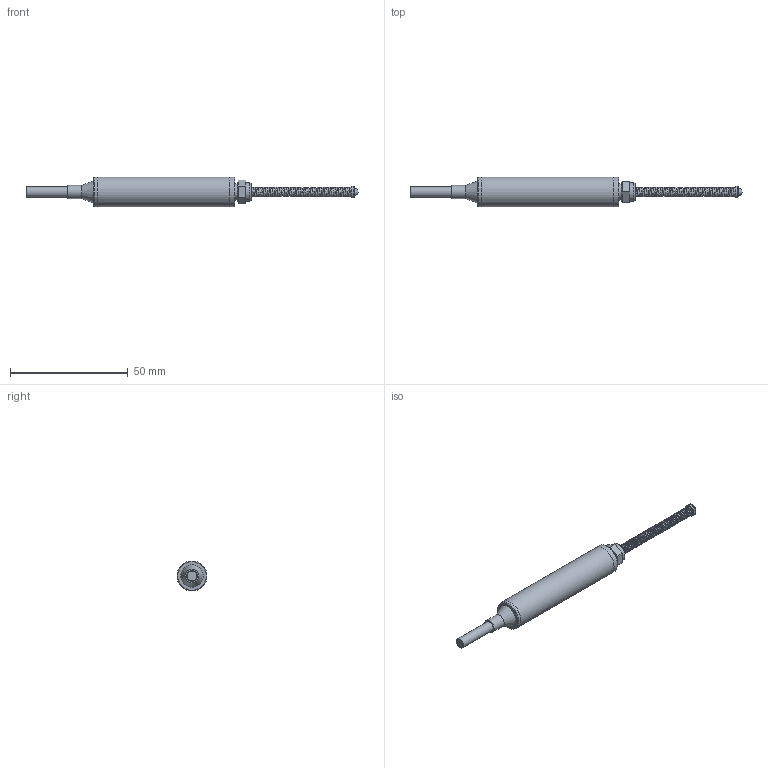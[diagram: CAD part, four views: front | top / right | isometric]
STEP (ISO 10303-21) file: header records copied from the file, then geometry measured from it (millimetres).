
FILE_DESCRIPTION(/* description */ (''),/* implementation_level */ '2;1');
FILE_NAME(/* name */ 'KPM12R2-25mm.stp',/* time_stamp */ '2022-04-18T13:12:28+08:00',/* author */ (''),/* organization */ (''),/* preprocessor_version */ 'ST-DEVELOPER v16',/* originating_system */ 'SIEMENS PLM Software NX 10.0',/* authorisation */ '');
FILE_SCHEMA (('AUTOMOTIVE_DESIGN { 1 0 10303 214 3 1 1 1 }'));
Length unit declared in the file: millimetre
Products named in the file (1): Admi28D0CC08idwa
Bounding box: 141.25 x 12.7 x 12.7 mm (x, y, z)
Volume: 4976.9 mm3; surface area: 9228.1 mm2
Topology: 11 solids, 11 shells, 142 faces, 333 edges, 224 vertices
Faces by surface type: plane 89, cylinder 42, cone 8, bspline 2, sphere 1
Full cylindrical faces by diameter (mm): 1.9 x1, 2.9 x1, 3 x1, 3.2 x1, 4.2 x1, 4.3 x3, 5 x2, 5.6 x1, 7.2 x1, 8 x2, 9.15 x1, 11 x1, 11.45 x1, 12.7 x3
Entity records: 15610 total; most frequent: CARTESIAN_POINT 12323, DIRECTION 676, ORIENTED_EDGE 584, EDGE_CURVE 292, AXIS2_PLACEMENT_3D 243, VERTEX_POINT 214, EDGE_LOOP 194, LINE 190
